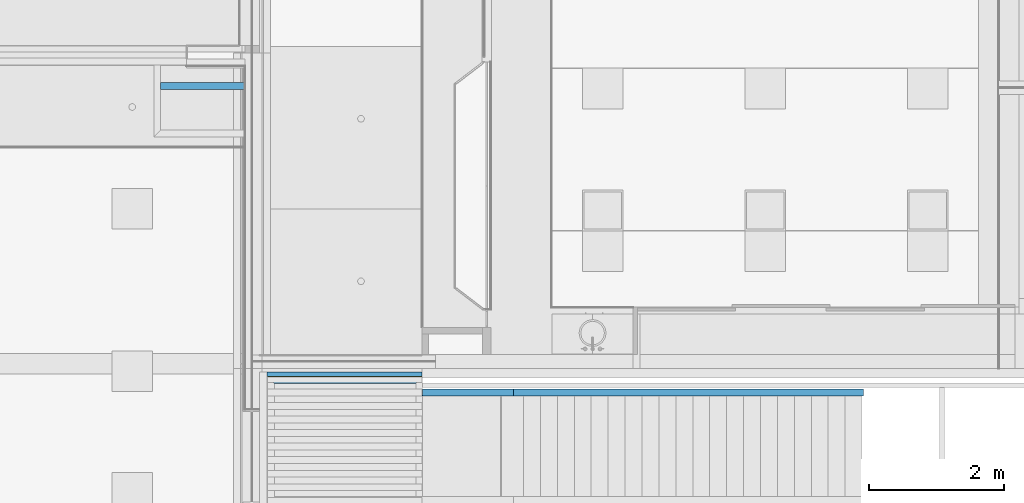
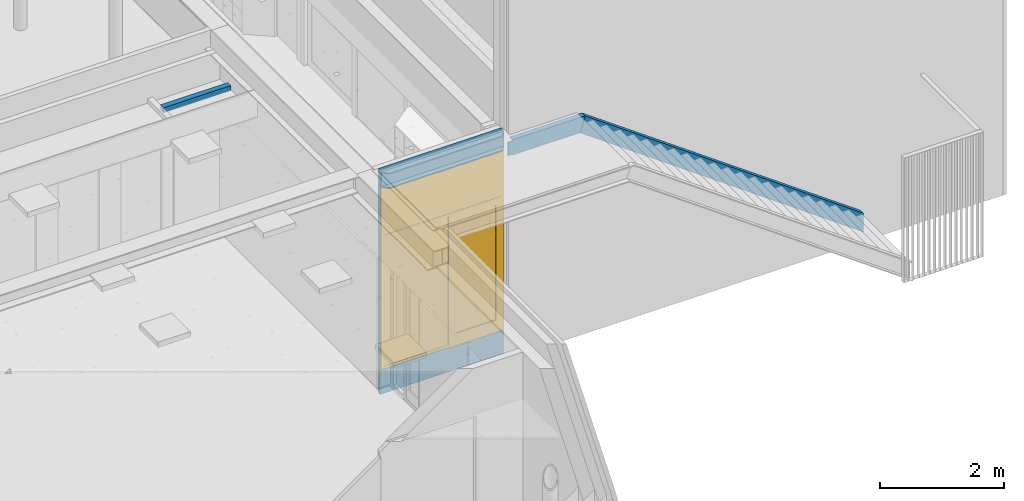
# One storey, part 29 of 347: 4 beams, 1 door, 1 member, 1 opening.
"""IFC2X3 building model written with IfcOpenShell, lengths in millimetres."""

from ifc_helpers import new_model, entity, si_unit, converted_unit, derived_unit, money_unit, direction, frame, origin_with_axes, place, context, subcontext, project, spatial, open_shell, faceted_brep, surface_model, material, type_object, element, fill, save


model = new_model("IFC2X3")

# Units and contexts
model_context = context("Model", 3, precision=0.01, world=origin_with_axes(), true_north=direction((0.0, 1.0)))
plan_context = context("Plan", 3, precision=0.01, world=origin_with_axes(), true_north=direction((0.0, 1.0)))
body_context = subcontext(model_context, "Body", "Model", "MODEL_VIEW")
ifc_project = project(units=[si_unit("LENGTHUNIT", "METRE", prefix="MILLI"), si_unit("AREAUNIT", "SQUARE_METRE"), si_unit("VOLUMEUNIT", "CUBIC_METRE"), converted_unit("PLANEANGLEUNIT", "DEGREE", entity("IfcPlaneAngleMeasure", 0.0174532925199), si_unit("PLANEANGLEUNIT", "RADIAN"), dimensions=[0, 0, 0, 0, 0, 0, 0]), money_unit("EUR"), converted_unit("TIMEUNIT", "Year", entity("IfcTimeMeasure", 31556926.0), si_unit("TIMEUNIT", "SECOND"), dimensions=[0, 0, 1, 0, 0, 0, 0]), si_unit("MASSUNIT", "GRAM", prefix="KILO"), si_unit("THERMODYNAMICTEMPERATUREUNIT", "DEGREE_CELSIUS"), si_unit("LUMINOUSINTENSITYUNIT", "LUMEN"), si_unit("ENERGYUNIT", "JOULE", prefix="MEGA"), derived_unit("THERMALCONDUCTANCEUNIT", [(si_unit("POWERUNIT", "WATT"), 1), (si_unit("LENGTHUNIT", "METRE"), -1), (si_unit("THERMODYNAMICTEMPERATUREUNIT", "KELVIN"), -1)]), derived_unit("SPECIFICHEATCAPACITYUNIT", [(si_unit("ENERGYUNIT", "JOULE"), 1), (si_unit("MASSUNIT", "GRAM", prefix="KILO"), -1), (si_unit("THERMODYNAMICTEMPERATUREUNIT", "KELVIN"), -1)]), derived_unit("MASSDENSITYUNIT", [(si_unit("MASSUNIT", "GRAM", prefix="KILO"), 1), (si_unit("VOLUMEUNIT", "CUBIC_METRE"), -1)])], contexts=[model_context, plan_context])

# Site, building, storey
site_placement = place(None, origin_with_axes())
site = spatial("IfcSite", under=ifc_project, at=site_placement, Name="Site", CompositionType="ELEMENT")
building_placement = place(site_placement, origin_with_axes())
building = spatial("IfcBuilding", under=site, at=building_placement, Name="Naam gebouw", CompositionType="ELEMENT")
storey_placement = place(building_placement, origin_with_axes())
storey = spatial("IfcBuildingStorey", under=building, at=storey_placement, Name="begane grond", CompositionType="ELEMENT", Elevation=0.0)

# Member, opening, door
ifc_material_1 = material(Name="31 pui/kozijn")
member_type = type_object("IfcMemberType", Name="31 pui/kozijn 62", PredefinedType="MEMBER")
member_placement = place(storey_placement, frame((47055.0, 12000.0000337, -510.000001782), z_axis=(0.0, 0.0, 1.0), x_axis=(-1.0, 0.0, 0.0)))
member = element("IfcMember", 1, at=member_placement, inside=storey, type_object=member_type, material=ifc_material_1, Name="21_31 buitenkozijn pui", ObjectType="MEMBER", context=body_context, shape_type="Brep", body=[
    faceted_brep([(0.0, 62.0, 4060.00000178), (0.0, 0.0, 4060.00000178), (0.0, 0.0, 4400.00000178), (0.0, 62.0, 4400.00000178), (2278.00001134, 0.0, 4060.00000178), (2278.00001134, 62.0, 4060.00000178), (1028.0, 0.0, 470.000001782), (0.0, 0.0, 470.000001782), (0.0, 0.0, 0.0), (2288.00003646, 0.0, 0.0), (2288.00003646, 0.0, 4400.00000178), (2278.00001134, 0.0, 487.000001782), (1028.0, 0.0, 487.000001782), (2288.00001134, 62.0, 4400.00000178), (2288.00001134, 62.0, 0.0), (0.0, 62.0, 0.0), (0.0, 62.0, 470.000001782), (1028.0, 62.0, 470.000001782), (1028.0, 62.0, 487.000001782), (2278.00001134, 62.0, 487.000001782)], [[[0, 1, 2, 3]], [[4, 1, 0, 5]], [[6, 7, 8, 9, 10, 2, 1, 4, 11, 12]], [[13, 3, 2, 10]], [[5, 0, 3, 13, 14, 15, 16, 17, 18, 19]], [[11, 4, 5, 19]], [[16, 7, 6, 17]], [[7, 16, 15, 8]], [[9, 8, 15, 14]], [[14, 13, 10, 9]], [[12, 11, 19, 18]], [[6, 12, 18, 17]]]),
])
opening_placement = place(member_placement, frame((1139.00000567, 0.0, 470.000001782), z_axis=(0.0, 0.0, 1.0), x_axis=(1.0, 0.0, 0.0)))
opening = element("IfcOpeningElement", 2, at=opening_placement, cuts=member, Name="32_merk-AS", context=body_context, shape_type="Brep", body=[
    faceted_brep([(-1139.00000567, -62.0, 0.0), (-1139.00000567, -62.0, 3590.0), (-1139.00000567, 134.0, 3590.0), (-1139.00000567, 134.0, 0.0), (-111.000022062, -62.0, 0.0), (-111.000022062, -62.0, 16.9999783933), (1138.99998777, -62.0, 16.9999783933), (1138.99998777, -62.0, 3590.0), (1138.99998777, 134.0, 3590.0), (1138.99998777, 134.0, 16.9999783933), (-111.000022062, 134.0, 16.9999783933), (-111.000022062, 134.0, 0.0)], [[[0, 1, 2, 3]], [[0, 4, 5, 6, 7, 1]], [[1, 7, 8, 2]], [[3, 2, 8, 9, 10, 11]], [[4, 0, 3, 11]], [[5, 4, 11, 10]], [[6, 5, 10, 9]], [[7, 6, 9, 8]]]),
])
door_style = type_object("IfcDoorStyle", Name="D1 bl zl1-a 25", ConstructionType="NOTDEFINED", OperationType="SINGLE_SWING_RIGHT", ParameterTakesPrecedence=False, Sizeable=False)
door_placement = place(opening_placement, frame((-1139.00000567, 0.0, 0.0), z_axis=(0.0, 0.0, 1.0), x_axis=(1.0, 0.0, 0.0)))
door = element("IfcDoor", 3, at=door_placement, inside=storey, type_object=door_style, Name="32_merk-AS", ObjectType="DOOR", OverallHeight=3590.0, OverallWidth=2278.0, context=body_context, shape_type="SurfaceModel", body=[
    faceted_brep([(39.0, 32.0, 48.0), (54.0, 32.0, 48.0), (54.0, 0.0, 48.0), (974.0, 0.0, 48.0), (974.0, 32.0, 48.0), (989.0, 32.0, 48.0), (989.0, 72.0, 48.0), (39.0, 72.0, 48.0), (39.0, 32.0, 0.0), (54.0, 32.0, 0.0), (54.0, 0.0, 0.0), (974.0, 0.0, 0.0), (974.0, 32.0, 0.0), (989.0, 32.0, 0.0), (989.0, 72.0, 0.0), (39.0, 72.0, 0.0)], [[[0, 1, 2, 3, 4, 5, 6, 7]], [[1, 0, 8, 9]], [[10, 2, 1, 9]], [[2, 10, 11, 3]], [[3, 11, 12, 4]], [[5, 4, 12, 13]], [[13, 14, 6, 5]], [[15, 7, 6, 14]], [[8, 0, 7, 15]], [[9, 8, 15, 14, 13, 12, 11, 10]]]),
    faceted_brep([(54.0, 32.0, 2601.0), (54.0, 72.0, 2601.0), (54.0, 72.0, 2640.0), (54.0, 0.0, 2640.0), (54.0, 0.0, 2586.0), (54.0, 0.0, 0.0), (54.0, 32.0, 0.0), (39.0, 32.0, 2601.0), (39.0, 72.0, 2601.0), (39.0, 72.0, 0.0), (0.0, 72.0, 0.0), (0.0, 72.0, 3536.0), (54.0, 72.0, 3536.0), (54.0, 0.0, 3536.0), (0.0, 0.0, 3536.0), (0.0, 0.0, 0.0), (39.0, 32.0, 0.0)], [[[0, 1, 2, 3, 4, 5, 6]], [[1, 0, 7, 8]], [[8, 9, 10, 11, 12, 2, 1]], [[12, 13, 3, 2]], [[3, 13, 14, 15, 5, 4]], [[16, 6, 5, 15, 10, 9]], [[0, 6, 16, 7]], [[9, 8, 7, 16]], [[10, 15, 14, 11]], [[11, 14, 13, 12]]]),
    faceted_brep([(2278.00001134, 72.0, 17.0), (2278.00001134, 72.0, 3536.0), (2278.00001134, 0.0, 3536.0), (2278.00001134, 0.0, 17.0), (2224.00001134, 72.0, 17.0), (2224.00001134, 72.0, 71.0), (2224.00001134, 72.0, 2586.0), (2224.00001134, 72.0, 2640.0), (2224.00001134, 72.0, 3536.0), (2224.00001134, 0.0, 3536.0), (2224.00001134, 0.0, 2640.0), (2224.00001134, 0.0, 2586.0), (2224.00001134, 0.0, 71.0), (2224.00001134, 0.0, 17.0)], [[[0, 1, 2, 3]], [[0, 4, 5, 6, 7, 8, 1]], [[1, 8, 9, 2]], [[3, 2, 9, 10, 11, 12, 13]], [[4, 0, 3, 13]], [[5, 4, 13, 12]], [[6, 5, 12, 11]], [[7, 6, 11, 10]], [[8, 7, 10, 9]]]),
    faceted_brep([(989.0, 32.0, 2586.0), (974.0, 32.0, 2586.0), (974.0, 0.0, 2586.0), (1028.0, 0.0, 2586.0), (1028.0, 72.0, 2586.0), (989.0, 72.0, 2586.0), (989.0, 32.0, 0.0), (974.0, 32.0, 0.0), (974.0, 0.0, 0.0), (1028.0, 0.0, 0.0), (1028.0, 0.0, 17.0), (1028.0, 0.0, 71.0), (1028.0, 72.0, 71.0), (989.0, 72.0, 0.0), (1028.0, 72.0, 17.0), (1028.0, 72.0, 0.0)], [[[0, 1, 2, 3, 4, 5]], [[1, 0, 6, 7]], [[1, 7, 8, 2]], [[9, 10, 11, 3, 2, 8]], [[4, 3, 11, 12]], [[13, 5, 4, 12, 14, 15]], [[0, 5, 13, 6]], [[6, 13, 15, 9, 8, 7]], [[14, 10, 9, 15]], [[12, 11, 10, 14]]]),
    faceted_brep([(1028.0, 72.0, 71.0), (1028.0, 72.0, 17.0), (1028.0, 0.0, 17.0), (1028.0, 0.0, 71.0), (2224.00001134, 72.0, 71.0), (2224.00001134, 72.0, 17.0), (2224.00001134, 0.0, 17.0), (2224.00001134, 0.0, 71.0)], [[[0, 1, 2, 3]], [[0, 4, 5, 1]], [[1, 5, 6, 2]], [[3, 2, 6, 7]], [[4, 0, 3, 7]], [[5, 4, 7, 6]]]),
    faceted_brep([(0.0, 72.0, 3590.0), (0.0, 72.0, 3536.0), (0.0, 0.0, 3536.0), (0.0, 0.0, 3590.0), (2278.00001134, 72.0, 3590.0), (2278.00001134, 72.0, 3536.0), (2224.00001134, 72.0, 3536.0), (54.0, 72.0, 3536.0), (54.0, 0.0, 3536.0), (2224.00001134, 0.0, 3536.0), (2278.00001134, 0.0, 3536.0), (2278.00001134, 0.0, 3590.0)], [[[0, 1, 2, 3]], [[0, 4, 5, 6, 7, 1]], [[1, 7, 8, 2]], [[3, 2, 8, 9, 10, 11]], [[4, 0, 3, 11]], [[5, 4, 11, 10]], [[6, 5, 10, 9]], [[7, 6, 9, 8]]]),
    faceted_brep([(989.0, 72.0, 2601.0), (54.0, 72.0, 2601.0), (54.0, 72.0, 2640.0), (2224.00001134, 72.0, 2640.0), (2224.00001134, 72.0, 2586.0), (1028.0, 72.0, 2586.0), (989.0, 72.0, 2586.0), (989.0, 32.0, 2601.0), (54.0, 32.0, 2601.0), (54.0, 32.0, 2586.0), (54.0, 0.0, 2586.0), (54.0, 0.0, 2640.0), (2224.00001134, 0.0, 2640.0), (2224.00001134, 0.0, 2586.0), (1028.0, 0.0, 2586.0), (989.0, 32.0, 2586.0), (974.0, 0.0, 2586.0), (974.0, 32.0, 2586.0)], [[[0, 1, 2, 3, 4, 5, 6]], [[1, 0, 7, 8]], [[8, 9, 10, 11, 2, 1]], [[2, 11, 12, 3]], [[3, 12, 13, 4]], [[4, 13, 14, 5]], [[15, 6, 5, 14, 16, 17]], [[0, 6, 15, 7]], [[15, 17, 9, 8, 7]], [[9, 17, 16, 10]], [[13, 12, 11, 10, 16, 14]]]),
    faceted_brep([(989.0, 72.0, 248.0), (989.0, 52.0, 248.0), (889.0, 52.0, 248.0), (889.0, 72.0, 248.0), (989.0, 72.0, 2501.0), (989.0, 52.0, 2501.0), (889.0, 52.0, 2501.0), (889.0, 72.0, 2501.0)], [[[0, 1, 2, 3]], [[4, 5, 1, 0]], [[1, 5, 6, 2]], [[3, 2, 6, 7]], [[0, 3, 7, 4]], [[7, 6, 5, 4]]]),
    faceted_brep([(39.0, 72.0, 248.0), (39.0, 52.0, 248.0), (39.0, 52.0, 2501.0), (39.0, 72.0, 2501.0), (139.0, 72.0, 248.0), (139.0, 52.0, 248.0), (139.0, 52.0, 2501.0), (139.0, 72.0, 2501.0)], [[[0, 1, 2, 3]], [[4, 5, 1, 0]], [[1, 5, 6, 2]], [[3, 2, 6, 7]], [[0, 3, 7, 4]], [[7, 6, 5, 4]]]),
    faceted_brep([(989.0, 72.0, 48.0), (989.0, 52.0, 48.0), (39.0, 52.0, 48.0), (39.0, 72.0, 48.0), (989.0, 72.0, 248.0), (989.0, 52.0, 248.0), (889.0, 52.0, 248.0), (139.0, 52.0, 248.0), (39.0, 52.0, 248.0), (39.0, 72.0, 248.0), (139.0, 72.0, 248.0), (889.0, 72.0, 248.0)], [[[0, 1, 2, 3]], [[4, 5, 1, 0]], [[1, 5, 6, 7, 8, 2]], [[3, 2, 8, 9]], [[0, 3, 9, 10, 11, 4]], [[11, 6, 5, 4]], [[10, 7, 6, 11]], [[9, 8, 7, 10]]]),
    faceted_brep([(989.0, 72.0, 2601.0), (989.0, 52.0, 2601.0), (989.0, 52.0, 2501.0), (989.0, 72.0, 2501.0), (39.0, 72.0, 2601.0), (39.0, 52.0, 2601.0), (39.0, 52.0, 2501.0), (139.0, 52.0, 2501.0), (889.0, 52.0, 2501.0), (889.0, 72.0, 2501.0), (139.0, 72.0, 2501.0), (39.0, 72.0, 2501.0)], [[[0, 1, 2, 3]], [[4, 5, 1, 0]], [[1, 5, 6, 7, 8, 2]], [[3, 2, 8, 9]], [[0, 3, 9, 10, 11, 4]], [[11, 6, 5, 4]], [[10, 7, 6, 11]], [[9, 8, 7, 10]]]),
    faceted_brep([(989.0, 52.0, 248.0), (989.0, 32.0, 248.0), (889.0, 32.0, 248.0), (889.0, 52.0, 248.0), (989.0, 52.0, 2501.0), (989.0, 32.0, 2501.0), (889.0, 32.0, 2501.0), (889.0, 52.0, 2501.0)], [[[0, 1, 2, 3]], [[4, 5, 1, 0]], [[1, 5, 6, 2]], [[3, 2, 6, 7]], [[0, 3, 7, 4]], [[7, 6, 5, 4]]]),
    faceted_brep([(39.0, 52.0, 248.0), (39.0, 32.0, 248.0), (39.0, 32.0, 2501.0), (39.0, 52.0, 2501.0), (139.0, 52.0, 248.0), (139.0, 32.0, 248.0), (139.0, 32.0, 2501.0), (139.0, 52.0, 2501.0)], [[[0, 1, 2, 3]], [[4, 5, 1, 0]], [[1, 5, 6, 2]], [[3, 2, 6, 7]], [[0, 3, 7, 4]], [[7, 6, 5, 4]]]),
    faceted_brep([(989.0, 52.0, 48.0), (989.0, 32.0, 48.0), (39.0, 32.0, 48.0), (39.0, 52.0, 48.0), (989.0, 52.0, 248.0), (989.0, 32.0, 248.0), (889.0, 32.0, 248.0), (139.0, 32.0, 248.0), (39.0, 32.0, 248.0), (39.0, 52.0, 248.0), (139.0, 52.0, 248.0), (889.0, 52.0, 248.0)], [[[0, 1, 2, 3]], [[4, 5, 1, 0]], [[1, 5, 6, 7, 8, 2]], [[3, 2, 8, 9]], [[0, 3, 9, 10, 11, 4]], [[11, 6, 5, 4]], [[10, 7, 6, 11]], [[9, 8, 7, 10]]]),
    faceted_brep([(989.0, 52.0, 2601.0), (989.0, 32.0, 2601.0), (989.0, 32.0, 2501.0), (989.0, 52.0, 2501.0), (39.0, 52.0, 2601.0), (39.0, 32.0, 2601.0), (39.0, 32.0, 2501.0), (139.0, 32.0, 2501.0), (889.0, 32.0, 2501.0), (889.0, 52.0, 2501.0), (139.0, 52.0, 2501.0), (39.0, 52.0, 2501.0)], [[[0, 1, 2, 3]], [[4, 5, 1, 0]], [[1, 5, 6, 7, 8, 2]], [[3, 2, 8, 9]], [[0, 3, 9, 10, 11, 4]], [[11, 6, 5, 4]], [[10, 7, 6, 11]], [[9, 8, 7, 10]]]),
    surface_model("IfcShellBasedSurfaceModel", [(889.0, 58.0, 248.0), (139.0, 58.0, 248.0), (139.0, 58.0, 2501.0), (889.0, 58.0, 2501.0)], [open_shell([[[0, 1, 2, 3]]])]),
    surface_model("IfcShellBasedSurfaceModel", [(889.0, 46.0, 248.0), (889.0, 46.0, 2501.0), (139.0, 46.0, 2501.0), (139.0, 46.0, 248.0)], [open_shell([[[0, 1, 2, 3]]])]),
    surface_model("IfcShellBasedSurfaceModel", [(54.0, 68.0, 2640.0), (54.0, 68.0, 3536.0), (2224.00001134, 68.0, 3536.0), (2224.00001134, 68.0, 2640.0)], [open_shell([[[0, 1, 2, 3]]])]),
    surface_model("IfcShellBasedSurfaceModel", [(54.0, 56.0, 2640.0), (2224.00001134, 56.0, 2640.0), (2224.00001134, 56.0, 3536.0), (54.0, 56.0, 3536.0)], [open_shell([[[0, 1, 2, 3]]])]),
    surface_model("IfcShellBasedSurfaceModel", [(1028.0, 68.0, 71.0), (1028.0, 68.0, 2586.0), (2224.00001134, 68.0, 2586.0), (2224.00001134, 68.0, 71.0)], [open_shell([[[0, 1, 2, 3]]])]),
    surface_model("IfcShellBasedSurfaceModel", [(1028.0, 56.0, 71.0), (2224.00001134, 56.0, 71.0), (2224.00001134, 56.0, 2586.0), (1028.0, 56.0, 2586.0)], [open_shell([[[0, 1, 2, 3]]])]),
])
fill(opening, door)

# Beams
ifc_material_2 = material(Name="ALG - CONSTRUCTIEF")
beam_type_1 = type_object("IfcBeamType", Name="ALG - CONSTRUCTIEF 100 x 100", PredefinedType="BEAM")
beam_1_placement = place(storey_placement, frame((43145.0, 16225.0, 3100.0), z_axis=(0.0, 0.0, 1.0), x_axis=(0.0, -1.0, 0.0)))
element("IfcBeam", 4, at=beam_1_placement, inside=storey, type_object=beam_type_1, material=ifc_material_2, Name="28_Balk-x", ObjectType="BEAM", context=body_context, shape_type="Brep", body=[
    faceted_brep([(-50.0, 1300.0, -100.0), (-50.0, 50.0, -100.0), (-50.0, 50.0, 0.0), (-50.0, 1300.0, 0.0), (50.0, 1300.0, -100.0), (50.0, 50.0, -100.0), (50.0, 50.0, 0.0), (50.0, 1300.0, 0.0)], [[[0, 1, 2, 3]], [[4, 5, 1, 0]], [[5, 6, 2, 1]], [[3, 2, 6, 7]], [[3, 7, 4, 0]], [[7, 6, 5, 4]]]),
])
ifc_material_3 = material(Name="Metaal - Staal C")
beam_type_2 = type_object("IfcBeamType", Name="UNP300 100 x 300", PredefinedType="BEAM")
beam_2_placement = place(storey_placement, frame((46965.0000101, 11930.0000337, 3860.0), z_axis=(0.0, 0.0, 1.0), x_axis=(0.0, 1.0, 0.0)))
element("IfcBeam", 5, at=beam_2_placement, inside=storey, type_object=beam_type_2, material=ifc_material_3, Name="28_Balk-x", ObjectType="BEAM", context=body_context, shape_type="Brep", body=[
    faceted_brep([(0.0, -100.0, 0.0), (0.0, 2190.0000101, 0.0), (-100.0, 2090.0000101, 0.0), (-100.0, 0.0, 0.0), (0.0, -100.0, -300.0), (0.0, 2190.0000101, -300.0), (-100.0, 2090.0000101, -300.0), (-100.0, 2090.0000101, -284.0), (-10.0, 2180.0000101, -284.0), (-10.0, 2180.0000101, -16.0), (-100.0, 2090.0000101, -16.0), (-100.0, 0.0, -16.0), (-10.0, -90.0, -16.0), (-10.0, -90.0, -284.0), (-100.0, 0.0, -284.0), (-100.0, 0.0, -300.0)], [[[0, 1, 2, 3]], [[4, 5, 1, 0]], [[2, 1, 5, 6, 7, 8, 9, 10]], [[3, 2, 10, 11]], [[4, 0, 3, 11, 12, 13, 14, 15]], [[15, 6, 5, 4]], [[14, 7, 6, 15]], [[13, 8, 7, 14]], [[12, 9, 8, 13]], [[11, 10, 9, 12]]]),
])
beam_3_placement = place(storey_placement, frame((46965.0000101, 11649.9999578, 3860.0), z_axis=(0.0, 0.0, 1.0), x_axis=(0.0, -1.0, 0.0)))
element("IfcBeam", 6, at=beam_3_placement, inside=storey, type_object=beam_type_2, material=ifc_material_3, Name="28_Balk-x", ObjectType="BEAM", context=body_context, shape_type="Brep", body=[
    faceted_brep([(-100.0, 1438.51230759, -16.0), (-100.0, 100.0, -16.0), (-100.0, 100.0, 0.0), (-100.0, 1443.67305745, 0.0), (-10.0, 1438.51230759, -16.0), (-10.0, 100.0, -16.0), (0.0, 100.0, -16.0), (0.0, 100.0, 0.0), (0.0, 1443.67305745, 0.0), (0.0, 1346.90899743, -300.0), (-100.0, 1346.90899743, -300.0), (-100.0, 1352.0697473, -284.0), (-10.0, 1352.0697473, -284.0), (-10.0, 10.0, -284.0), (-10.0, 10.0, -16.0), (-10.0, 100.0, -284.0), (0.0, 10.0, -284.0), (0.0, 100.0, -284.0), (0.0, 100.0, -300.0), (0.0, 10.0, -16.0), (-100.0, 100.0, -300.0), (-100.0, 100.0, -284.0)], [[[0, 1, 2, 3]], [[4, 5, 1, 0]], [[6, 7, 2, 1, 5]], [[3, 2, 7, 8]], [[4, 0, 3, 8, 9, 10, 11, 12]], [[13, 14, 5, 4, 12, 15]], [[16, 17, 18, 9, 8, 7, 6, 19]], [[6, 5, 14, 19]], [[9, 18, 20, 10]], [[10, 20, 21, 11]], [[11, 21, 15, 12]], [[19, 14, 13, 16]], [[16, 13, 15, 17]], [[17, 15, 21, 20, 18]]]),
])
beam_4_placement = place(storey_placement, frame((48311.4508453, 11649.9999578, 3930.0), z_axis=(0.0, 0.0, 1.0), x_axis=(0.0, -1.0, 0.0)))
element("IfcBeam", 7, at=beam_4_placement, inside=storey, type_object=beam_type_2, material=ifc_material_3, Name="28_Balk-x", ObjectType="BEAM", context=body_context, shape_type="Brep", body=[
    faceted_brep([(0.0, 97.2222222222, -70.0), (0.0, 5263.54906267, -3789.75532512), (-100.0, 5263.54906267, -3789.75532512), (-100.0, 97.2222222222, -70.0), (0.0, 0.458162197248, -370.0), (0.0, 5263.54906267, -4159.42544834), (-100.0, 5263.54906267, -4159.42544834), (-100.0, 5263.54906267, -4139.70970843), (-10.0, 5263.54906267, -4139.70970843), (-10.0, 5263.54906267, -3809.47106502), (-100.0, 5263.54906267, -3809.47106502), (-100.0, 92.0614723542, -86.0), (-10.0, 92.0614723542, -86.0), (-10.0, 5.61891206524, -354.0), (-100.0, 5.61891206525, -354.0), (-100.0, 0.458162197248, -370.0)], [[[0, 1, 2, 3]], [[4, 5, 1, 0]], [[2, 1, 5, 6, 7, 8, 9, 10]], [[3, 2, 10, 11]], [[4, 0, 3, 11, 12, 13, 14, 15]], [[15, 6, 5, 4]], [[14, 7, 6, 15]], [[13, 8, 7, 14]], [[12, 9, 8, 13]], [[11, 10, 9, 12]]]),
])

save(model, "model.ifc")
